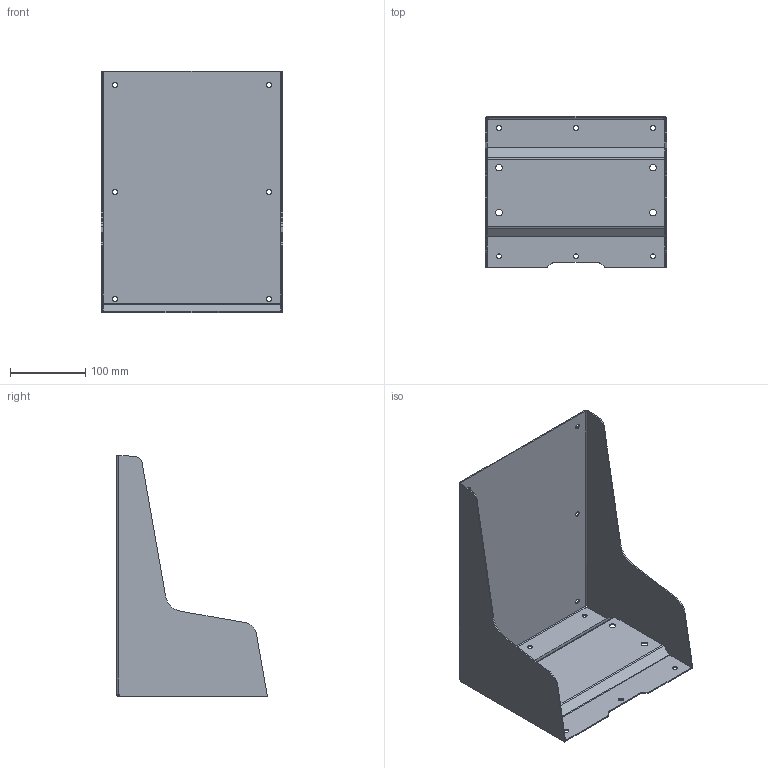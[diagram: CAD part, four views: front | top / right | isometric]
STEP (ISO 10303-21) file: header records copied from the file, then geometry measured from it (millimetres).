
FILE_DESCRIPTION (( 'STEP AP214' ), '1' );
FILE_NAME ('MONO_038-p101_01.STEP', '2025-10-01T01:28:47', ( '' ), ( '' ), 'SwSTEP 2.0', 'SolidWorks 2024', '' );
FILE_SCHEMA (( 'AUTOMOTIVE_DESIGN' ));
Length unit declared in the file: millimetre
Products named in the file (1): MONO_038-p101_01
Bounding box: 240 x 200 x 320 mm (x, y, z)
Volume: 294703.6 mm3; surface area: 372441.3 mm2
Topology: 1 solids, 1 shells, 110 faces, 268 edges, 160 vertices
Faces by surface type: plane 66, cylinder 42, bspline 2
Full cylindrical faces by diameter (mm): 6.5 x12, 8.75 x4
Entity records: 3231 total; most frequent: CARTESIAN_POINT 605, DIRECTION 542, ORIENTED_EDGE 504, EDGE_CURVE 252, AXIS2_PLACEMENT_3D 189, LINE 164, VECTOR 164, VERTEX_POINT 160
